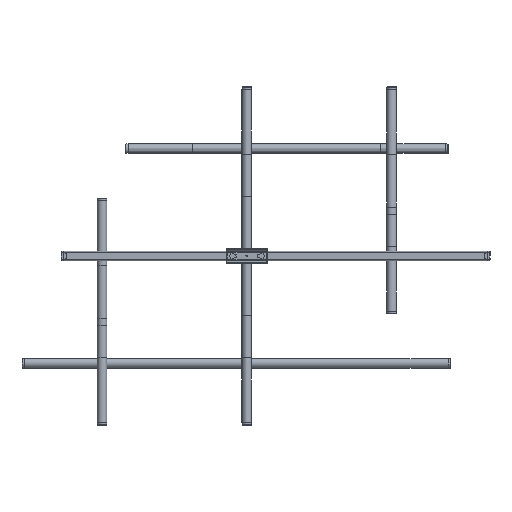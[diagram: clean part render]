
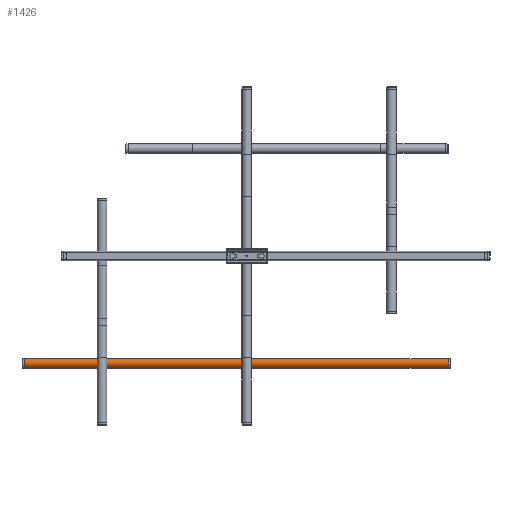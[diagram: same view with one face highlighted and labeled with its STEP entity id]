
A CAD part, top view. The second image highlights one B-rep face of the part: STEP entity #1426.
In plain terms, the highlighted free-form (B-spline) face has degree [1, 2] with [2, 5] control points.
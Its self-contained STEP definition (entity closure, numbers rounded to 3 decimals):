
#1426=ADVANCED_FACE('',(#3008),#23064,.T.);
#3008=FACE_OUTER_BOUND('',#4590,.T.);
#4590=EDGE_LOOP('',(#9969,#9970,#9971,#9972));
#9969=ORIENTED_EDGE('',*,*,#14812,.F.);
#9970=ORIENTED_EDGE('',*,*,#14811,.F.);
#9971=ORIENTED_EDGE('',*,*,#14810,.T.);
#9972=ORIENTED_EDGE('',*,*,#14785,.T.);
#14785=EDGE_CURVE('',#21012,#21013,#19255,.T.);
#14810=EDGE_CURVE('',#21030,#21012,#17216,.T.);
#14811=EDGE_CURVE('',#21030,#21031,#19268,.T.);
#14812=EDGE_CURVE('',#21031,#21013,#17217,.T.);
#17216=B_SPLINE_CURVE_WITH_KNOTS('',1,(#41504,#41505),.UNSPECIFIED.,.F.,
 .F.,(2,2),(-1023.816,0.),.UNSPECIFIED.);
#17217=B_SPLINE_CURVE_WITH_KNOTS('',1,(#41511,#41512),.UNSPECIFIED.,.F.,
 .F.,(2,2),(-1023.816,0.),.UNSPECIFIED.);
#19255=(
BOUNDED_CURVE()
B_SPLINE_CURVE(2,(#41433,#41434,#41435,#41436,#41437),.UNSPECIFIED.,.F.,
 .F.)
B_SPLINE_CURVE_WITH_KNOTS((3,2,3),(10.956,12.526,14.097),
 .UNSPECIFIED.)
CURVE()
GEOMETRIC_REPRESENTATION_ITEM()
RATIONAL_B_SPLINE_CURVE((1.,0.707,1.,0.707,1.))
REPRESENTATION_ITEM('')
);
#19268=(
BOUNDED_CURVE()
B_SPLINE_CURVE(2,(#41506,#41507,#41508,#41509,#41510),.UNSPECIFIED.,.F.,
 .F.)
B_SPLINE_CURVE_WITH_KNOTS((3,2,3),(10.956,12.526,14.097),
 .UNSPECIFIED.)
CURVE()
GEOMETRIC_REPRESENTATION_ITEM()
RATIONAL_B_SPLINE_CURVE((1.,0.707,1.,0.707,1.))
REPRESENTATION_ITEM('')
);
#21012=VERTEX_POINT('',#41382);
#21013=VERTEX_POINT('',#41383);
#21030=VERTEX_POINT('',#41400);
#21031=VERTEX_POINT('',#41401);
#23064=(
BOUNDED_SURFACE()
B_SPLINE_SURFACE(1,2,((#41316,#41317,#41318,#41319,#41320),(#41321,#41322,
#41323,#41324,#41325)),.UNSPECIFIED.,.F.,.F.,.F.)
B_SPLINE_SURFACE_WITH_KNOTS((2,2),(3,2,3),(0.,1023.816),(-14.097,
-12.526,-10.956),.UNSPECIFIED.)
GEOMETRIC_REPRESENTATION_ITEM()
RATIONAL_B_SPLINE_SURFACE(((1.,0.707,1.,0.707,1.),
(1.,0.707,1.,0.707,1.)))
REPRESENTATION_ITEM('')
SURFACE()
);
#41316=CARTESIAN_POINT('',(5004.,-335.248,-78.719));
#41317=CARTESIAN_POINT('',(5004.,-335.248,-67.219));
#41318=CARTESIAN_POINT('',(5004.,-323.748,-67.219));
#41319=CARTESIAN_POINT('',(5004.,-312.248,-67.219));
#41320=CARTESIAN_POINT('',(5004.,-312.248,-78.719));
#41321=CARTESIAN_POINT('',(6027.816,-335.248,-78.719));
#41322=CARTESIAN_POINT('',(6027.816,-335.248,-67.219));
#41323=CARTESIAN_POINT('',(6027.816,-323.748,-67.219));
#41324=CARTESIAN_POINT('',(6027.816,-312.248,-67.219));
#41325=CARTESIAN_POINT('',(6027.816,-312.248,-78.719));
#41382=CARTESIAN_POINT('',(5004.,-312.248,-78.719));
#41383=CARTESIAN_POINT('',(5004.,-335.248,-78.719));
#41400=CARTESIAN_POINT('',(6027.816,-312.248,-78.719));
#41401=CARTESIAN_POINT('',(6027.816,-335.248,-78.719));
#41433=CARTESIAN_POINT('',(5004.,-312.248,-78.719));
#41434=CARTESIAN_POINT('',(5004.,-312.248,-67.219));
#41435=CARTESIAN_POINT('',(5004.,-323.748,-67.219));
#41436=CARTESIAN_POINT('',(5004.,-335.248,-67.219));
#41437=CARTESIAN_POINT('',(5004.,-335.248,-78.719));
#41504=CARTESIAN_POINT('',(6027.816,-312.248,-78.719));
#41505=CARTESIAN_POINT('',(5004.,-312.248,-78.719));
#41506=CARTESIAN_POINT('',(6027.816,-312.248,-78.719));
#41507=CARTESIAN_POINT('',(6027.816,-312.248,-67.219));
#41508=CARTESIAN_POINT('',(6027.816,-323.748,-67.219));
#41509=CARTESIAN_POINT('',(6027.816,-335.248,-67.219));
#41510=CARTESIAN_POINT('',(6027.816,-335.248,-78.719));
#41511=CARTESIAN_POINT('',(6027.816,-335.248,-78.719));
#41512=CARTESIAN_POINT('',(5004.,-335.248,-78.719));
